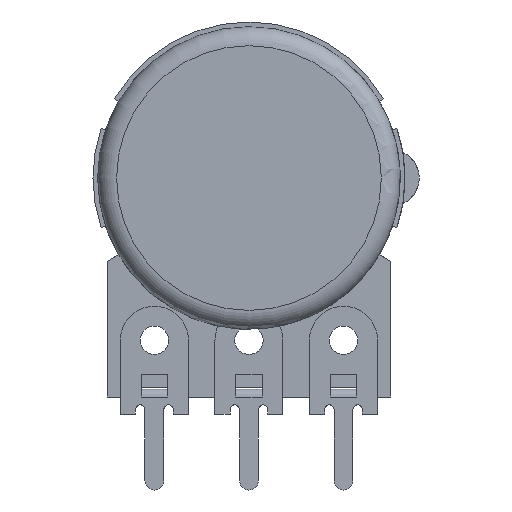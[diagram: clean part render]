
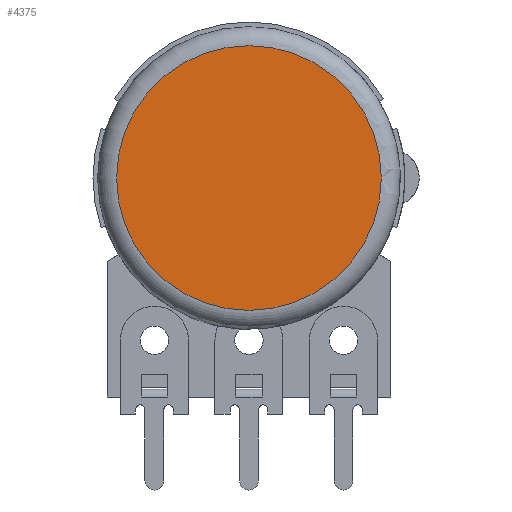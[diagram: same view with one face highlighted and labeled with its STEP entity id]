
A CAD part, front view. The second image highlights one B-rep face of the part: STEP entity #4375.
In plain terms, the highlighted planar face has unit normal (0, -1, 0).
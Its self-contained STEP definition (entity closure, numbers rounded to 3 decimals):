
#1563=ORIENTED_EDGE('',*,*,#2650,.T.);
#2650=EDGE_CURVE('',#3199,#3199,#3460,.F.);
#3199=VERTEX_POINT('',#10160);
#3460=CIRCLE('',#6284,7.);
#3661=EDGE_LOOP('',(#1563));
#3948=FACE_BOUND('',#3661,.T.);
#4164=PLANE('',#6283);
#4375=ADVANCED_FACE('',(#3948),#4164,.F.);
#6283=AXIS2_PLACEMENT_3D('',#10158,#7161,#7162);
#6284=AXIS2_PLACEMENT_3D('',#10159,#7163,#7164);
#7161=DIRECTION('',(0.,1.,0.));
#7162=DIRECTION('',(0.,0.,-1.));
#7163=DIRECTION('',(0.,1.,0.));
#7164=DIRECTION('',(0.,0.,1.));
#10158=CARTESIAN_POINT('',(0.,-7.91,0.));
#10159=CARTESIAN_POINT('',(0.,-7.91,0.));
#10160=CARTESIAN_POINT('',(0.,-7.91,7.));
